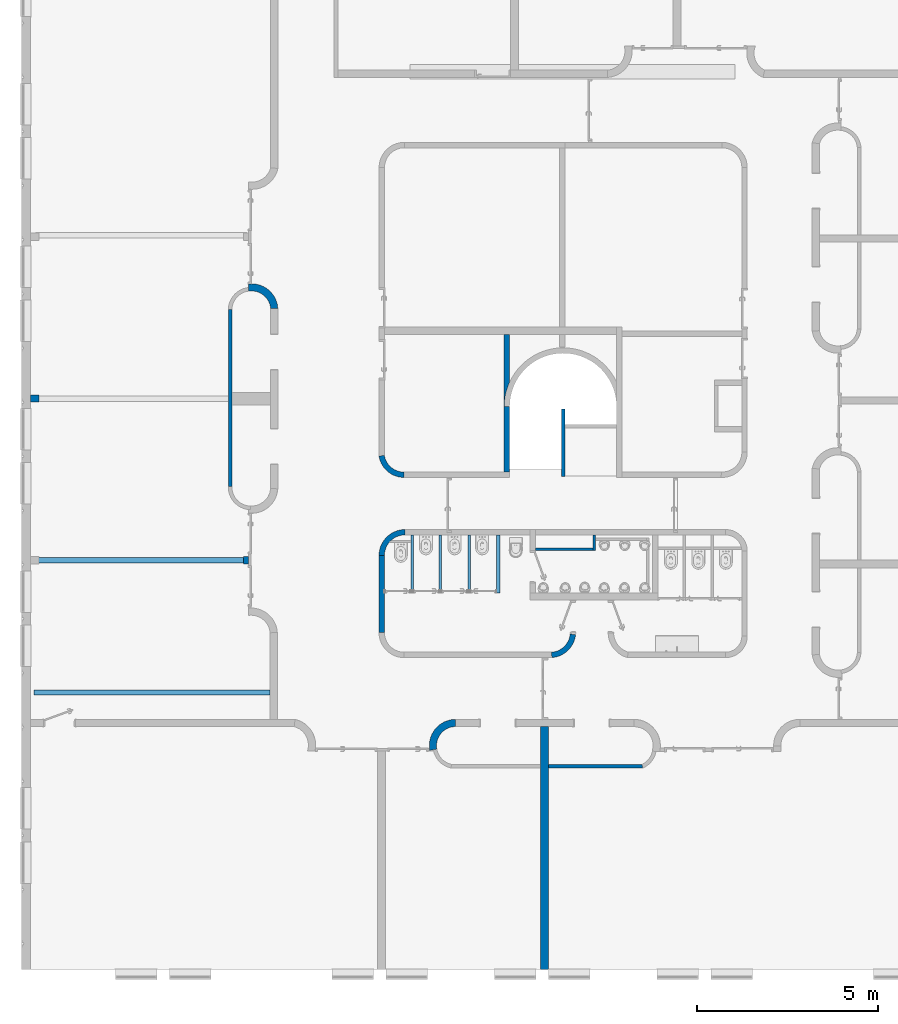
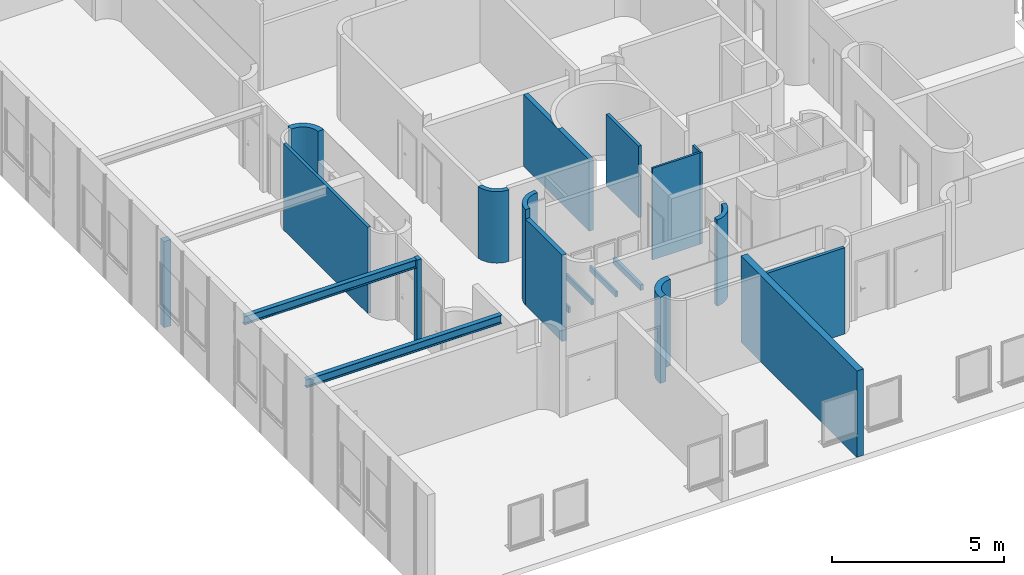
# One storey, part 1 of 7: 19 walls, 2 beams, 1 opening.
"""IFC2X3 building model written with IfcOpenShell, lengths in metres."""

from ifc_helpers import new_model, entity, si_unit, converted_unit, derived_unit, direction, frame, frame_2d, origin, origin_2d_with_axis, place, context, subcontext, project, spatial, polyline, circle_curve, parameter, trimmed, segment, composite_curve, rectangle, i_section, outline, extrude, clip, halfspace, bounded_halfspace, material, layer, layer_set, layer_usage, type_object, element, save


model = new_model("IFC2X3")

# Units and contexts
model_context = context("Model", 3, precision=1e-05, world=origin(), true_north=direction((6.12303176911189e-17, 1.0)))
body_context = subcontext(model_context, "Body", "Model", "MODEL_VIEW")
ifc_project = project(units=[si_unit("LENGTHUNIT", "METRE"), si_unit("AREAUNIT", "SQUARE_METRE"), si_unit("VOLUMEUNIT", "CUBIC_METRE"), converted_unit("PLANEANGLEUNIT", "DEGREE", entity("IfcRatioMeasure", 0.0174532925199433), si_unit("PLANEANGLEUNIT", "RADIAN"), dimensions=[0, 0, 0, 0, 0, 0, 0]), si_unit("MASSUNIT", "GRAM", prefix="KILO"), derived_unit("MASSDENSITYUNIT", [(si_unit("MASSUNIT", "GRAM", prefix="KILO"), 1), (si_unit("LENGTHUNIT", "METRE"), -3)]), derived_unit("MOMENTOFINERTIAUNIT", [(si_unit("LENGTHUNIT", "METRE"), 4)]), si_unit("TIMEUNIT", "SECOND"), si_unit("FREQUENCYUNIT", "HERTZ"), si_unit("THERMODYNAMICTEMPERATUREUNIT", "DEGREE_CELSIUS"), derived_unit("THERMALTRANSMITTANCEUNIT", [(si_unit("MASSUNIT", "GRAM", prefix="KILO"), 1), (si_unit("THERMODYNAMICTEMPERATUREUNIT", "KELVIN"), -1), (si_unit("TIMEUNIT", "SECOND"), -3)]), derived_unit("VOLUMETRICFLOWRATEUNIT", [(si_unit("LENGTHUNIT", "METRE"), 3), (si_unit("TIMEUNIT", "SECOND"), -1)]), si_unit("ELECTRICCURRENTUNIT", "AMPERE"), si_unit("ELECTRICVOLTAGEUNIT", "VOLT"), si_unit("POWERUNIT", "WATT"), si_unit("FORCEUNIT", "NEWTON", prefix="KILO"), si_unit("ILLUMINANCEUNIT", "LUX"), si_unit("LUMINOUSFLUXUNIT", "LUMEN"), si_unit("LUMINOUSINTENSITYUNIT", "CANDELA"), derived_unit("USERDEFINED", [(si_unit("MASSUNIT", "GRAM", prefix="KILO"), -1), (si_unit("LENGTHUNIT", "METRE"), -2), (si_unit("TIMEUNIT", "SECOND"), 3), (si_unit("LUMINOUSFLUXUNIT", "LUMEN"), 1)]), derived_unit("LINEARVELOCITYUNIT", [(si_unit("LENGTHUNIT", "METRE"), 1), (si_unit("TIMEUNIT", "SECOND"), -1)]), si_unit("PRESSUREUNIT", "PASCAL"), derived_unit("USERDEFINED", [(si_unit("LENGTHUNIT", "METRE"), -2), (si_unit("MASSUNIT", "GRAM", prefix="KILO"), 1), (si_unit("TIMEUNIT", "SECOND"), -2)]), derived_unit("LINEARFORCEUNIT", [(si_unit("MASSUNIT", "GRAM", prefix="KILO"), 1), (si_unit("LENGTHUNIT", "METRE"), 1), (si_unit("TIMEUNIT", "SECOND"), -2), (si_unit("LENGTHUNIT", "METRE"), -1)]), derived_unit("PLANARFORCEUNIT", [(si_unit("MASSUNIT", "GRAM", prefix="KILO"), 1), (si_unit("LENGTHUNIT", "METRE"), 1), (si_unit("TIMEUNIT", "SECOND"), -2), (si_unit("LENGTHUNIT", "METRE"), -2)])], contexts=[model_context])

# Site, building, storey
site_placement = place(None, origin())
site = spatial("IfcSite", under=ifc_project, at=site_placement, Name="Default", CompositionType="ELEMENT")
building_placement = place(site_placement, origin())
building = spatial("IfcBuilding", under=site, at=building_placement, CompositionType="ELEMENT")
storey_placement = place(building_placement, frame((0.0, 0.0, 7.36730827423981)))
storey = spatial("IfcBuildingStorey", under=building, at=storey_placement, Name="Niveau 2", CompositionType="ELEMENT", Elevation=7.36730827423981)

# Beams
ifc_material_1 = material(Name="Acier structurel - S235")
beam_type = type_object("IfcBeamType", Name="IPE 30:IPE300", PredefinedType="NOTDEFINED")
beam_1_placement = place(storey_placement, frame((-25.4539891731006, -9.6241883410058, 0.656000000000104)))
element("IfcBeam", 1, at=beam_1_placement, inside=storey, type_object=beam_type, material=ifc_material_1, Name="IPE 30:IPE300", ObjectType="IPE 30:IPE300", context=body_context, shape_type="SweptSolid", body=[
    extrude(i_section(OverallWidth=0.150000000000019, OverallDepth=0.299999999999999, WebThickness=0.00709999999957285, FlangeThickness=0.0106999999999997, FilletRadius=0.0150000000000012, at=frame_2d((1.08246744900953e-15, -1.08246744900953e-15), x_axis=(0.0, 1.0))), frame((0.0, 0.0, 2.24999999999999), z_axis=(1.0, 0.0, 0.0), x_axis=(0.0, 0.0, -1.0)), (0.0, 0.0, 1.0), 5.86),
])
beam_2_placement = place(storey_placement, frame((-25.4939891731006, -13.2841883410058, 0.656000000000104)))
element("IfcBeam", 2, at=beam_2_placement, inside=storey, type_object=beam_type, material=ifc_material_1, Name="IPE 30:IPE300", ObjectType="IPE 30:IPE300", context=body_context, shape_type="SweptSolid", body=[
    extrude(i_section(OverallWidth=0.15000000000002, OverallDepth=0.300000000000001, WebThickness=0.00709999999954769, FlangeThickness=0.0107000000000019, FilletRadius=0.0150000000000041, at=frame_2d((2.16493489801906e-15, 0.0), x_axis=(0.0, 1.0))), frame((0.0, 0.0, 2.24999999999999), z_axis=(1.0, 0.0, 0.0), x_axis=(0.0, 0.0, -1.0)), (0.0, 0.0, 1.0), 6.535),
])

# Wall
ifc_material_2 = material(Name="Maçonnerie - Voile BA")
ifc_layer_1 = layer(ifc_material_2, 0.2)
ifc_layer_set_1 = layer_set([ifc_layer_1], Name="Mur de base:Ext. Voile BA 200")
ifc_layer_usage_1 = layer_usage(ifc_layer_set_1, "AXIS2", "NEGATIVE", 0.1)
wall_type_1 = type_object("IfcWallType", Name="Mur de base:Ext. Voile BA 200", PredefinedType="STANDARD", material=ifc_layer_set_1)
wall_1_placement = place(storey_placement, frame((-14.4390437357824, -14.8705536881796, 0.0), z_axis=(0.0, 0.0, 1.0), x_axis=(-1.0, 0.0, 0.0)))
element("IfcWallStandardCase", 3, at=wall_1_placement, inside=storey, type_object=wall_type_1, material=ifc_layer_usage_1, Name="Mur de base:Ext. Voile BA 200", ObjectType="Mur de base:Ext. Voile BA 200", context=body_context, shape_type="Clipping", body=[
    clip(extrude(outline(composite_curve([segment(trimmed(circle_curve(frame_2d((-0.620065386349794, -0.111440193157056), x_axis=(1.0, 0.0)), 0.73), [parameter(269.999999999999)], [parameter(10.1886163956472)], True, "PARAMETER"), True, "CONTINUOUS"), segment(polyline([(0.0984230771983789, 0.0176889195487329), (-0.098423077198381, -0.0176889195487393)]), True, "CONTINUOUS"), segment(trimmed(circle_curve(frame_2d((-0.620065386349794, -0.111440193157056), x_axis=(1.0, 0.0)), 0.53), [parameter(269.999999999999)], [parameter(10.1886163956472)], True, "PARAMETER"), False, "CONTINUOUS"), segment(polyline([(-0.620065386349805, -0.641440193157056), (-0.620065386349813, -0.841440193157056)]), True, "CONTINUOUS")], self_intersect=False)), origin(), (0.0, 0.0, 1.0), 3.05600000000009), halfspace(frame((-0.62006538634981, -0.841440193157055, 3.05600000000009), z_axis=(0.0, 0.0, -1.0), x_axis=(0.0, -1.0, 0.0)), True)),
])

# Wall, opening
ifc_layer_usage_2 = layer_usage(ifc_layer_set_1, "AXIS2", "NEGATIVE", 0.1)
wall_2_placement = place(storey_placement, frame((-19.572419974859, -2.07282831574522, 0.0)))
wall_2 = element("IfcWallStandardCase", 4, at=wall_2_placement, inside=storey, type_object=wall_type_1, material=ifc_layer_usage_2, Name="Mur de base:Ext. Voile BA 200", ObjectType="Mur de base:Ext. Voile BA 200", context=body_context, shape_type="Clipping", body=[
    clip(extrude(outline(composite_curve([segment(polyline([(0.62843080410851, -0.578719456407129), (0.828430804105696, -0.57119727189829)]), True, "CONTINUOUS"), segment(trimmed(circle_curve(frame_2d((0.10019936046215, -0.621980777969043), x_axis=(1.0, 0.0)), 0.73), [parameter(3.98908573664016)], [parameter(91.12202512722)], True, "PARAMETER"), True, "CONTINUOUS"), segment(polyline([(0.085904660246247, 0.107879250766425), (0.0859046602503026, 0.102085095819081)]), True, "CONTINUOUS"), segment(polyline([(0.0859046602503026, 0.102085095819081), (0.0159046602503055, 0.102085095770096)]), True, "CONTINUOUS"), segment(polyline([(0.0159046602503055, 0.102085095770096), (0.0159046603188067, 0.00419670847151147)]), True, "CONTINUOUS"), segment(polyline([(0.0159046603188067, 0.00419670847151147), (0.0159046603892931, -0.0965302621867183)]), True, "CONTINUOUS"), segment(polyline([(0.0159046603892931, -0.0965302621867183), (0.0159046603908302, -0.0987271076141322)]), True, "CONTINUOUS"), segment(trimmed(circle_curve(frame_2d((0.10019936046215, -0.621980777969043), x_axis=(1.0, 0.0)), 0.53), [parameter(4.68198466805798)], [parameter(99.1515620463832)], True, "PARAMETER"), False, "CONTINUOUS")], self_intersect=False)), origin(), (0.0, 0.0, 1.0), 3.05600000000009), bounded_halfspace(frame((0.828430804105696, -0.57119727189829, 3.05600000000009), z_axis=(0.0, 0.0, -1.0), x_axis=(0.0, 1.0, 0.0)), True, frame((0.828430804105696, -0.57119727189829, 3.05600000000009)), composite_curve([segment(trimmed(circle_curve(frame_2d((-0.221964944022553, -0.0154788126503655), x_axis=(1.0, 0.0)), 0.73), [parameter(3.98908573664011)], [parameter(12.3043566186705)], True, "PARAMETER"), True, "CONTINUOUS"), segment(trimmed(circle_curve(frame_2d((-0.221964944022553, -0.0154788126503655), x_axis=(1.0, 0.0)), 0.73), [parameter(12.3043566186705)], [parameter(45.3272334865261)], True, "PARAMETER"), True, "CONTINUOUS"), segment(trimmed(circle_curve(frame_2d((-0.221964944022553, -0.0154788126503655), x_axis=(1.0, 0.0)), 0.73), [parameter(45.3272334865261)], [parameter(96.6308611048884)], True, "PARAMETER"), True, "CONTINUOUS"), segment(polyline([(-0.247657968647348, 0.205536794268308), (-0.247657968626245, 0.175380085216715)]), True, "CONTINUOUS"), segment(polyline([(-0.247657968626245, 0.175380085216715), (-0.247657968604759, 0.144678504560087)]), True, "CONTINUOUS"), segment(polyline([(-0.247657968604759, 0.144678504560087), (-0.247657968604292, 0.144008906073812)]), True, "CONTINUOUS"), segment(trimmed(circle_curve(frame_2d((-0.221964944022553, -0.0154788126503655), x_axis=(1.0, 0.0)), 0.53), [parameter(14.4510463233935)], [parameter(99.1515620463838)], True, "PARAMETER"), False, "CONTINUOUS"), segment(trimmed(circle_curve(frame_2d((-0.221964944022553, -0.0154788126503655), x_axis=(1.0, 0.0)), 0.53), [parameter(4.68198466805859)], [parameter(14.4510463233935)], True, "PARAMETER"), False, "CONTINUOUS"), segment(polyline([(-0.0609599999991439, -0.00229276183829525), (-0.00457200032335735, -0.000171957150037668)]), True, "CONTINUOUS"), segment(polyline([(-0.00457200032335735, -0.000171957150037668), (0.0, 0.0)]), True, "CONTINUOUS")], self_intersect=False))),
])
opening_placement = place(wall_2_placement, origin())
element("IfcOpeningElement", 5, at=opening_placement, cuts=wall_2, Name="Mur de base:Ext. Voile BA 200", ObjectType="Opening", context=body_context, shape_type="SweptSolid", body=[
    extrude(rectangle(XDim=0.0700000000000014, YDim=1.12, at=origin_2d_with_axis()), frame((0.0509046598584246, 0.662085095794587, 0.0)), (0.0, 0.0, 1.0), 2.075),
])

# Walls
ifc_layer_usage_3 = layer_usage(ifc_layer_set_1, "AXIS2", "NEGATIVE", 0.1)
wall_3_placement = place(storey_placement, frame((-19.7015153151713, -9.62418834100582, 0.0)))
element("IfcWallStandardCase", 6, at=wall_3_placement, inside=storey, type_object=wall_type_1, material=ifc_layer_usage_3, Name="Mur de base:Ext. Voile BA 200", ObjectType="Mur de base:Ext. Voile BA 200", context=body_context, shape_type="Clipping", body=[
    clip(extrude(rectangle(XDim=0.14500000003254, YDim=0.2, at=frame_2d((0.0725000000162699, -1.11022302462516e-16), x_axis=(-1.0, 0.0))), origin(), (0.0, 0.0, 1.0), 3.05600000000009), bounded_halfspace(frame((0.0, -0.1, 3.05600000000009), z_axis=(0.0, 0.0, -1.0), x_axis=(0.0, 1.0, 0.0)), True, frame((0.0, -0.1, 3.05600000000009)), polyline([(0.0, 0.0), (0.14500000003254, 0.0), (0.144999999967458, 0.2), (0.0, 0.2), (0.0, 0.0)]))),
])
ifc_layer_usage_4 = layer_usage(ifc_layer_set_1, "AXIS2", "NEGATIVE", 0.1)
wall_4_placement = place(storey_placement, frame((-25.5939891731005, -5.1441883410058, 0.0)))
element("IfcWallStandardCase", 7, at=wall_4_placement, inside=storey, type_object=wall_type_1, material=ifc_layer_usage_4, Name="Mur de base:Ext. Voile BA 200", ObjectType="Mur de base:Ext. Voile BA 200", context=body_context, shape_type="Clipping", body=[
    clip(extrude(rectangle(XDim=0.232473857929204, YDim=0.2, at=frame_2d((0.116236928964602, 1.52655665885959e-16), x_axis=(-1.0, 0.0))), origin(), (0.0, 0.0, 1.0), 3.05600000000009), bounded_halfspace(frame((0.0, -0.1, 3.05600000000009), z_axis=(0.0, 0.0, -1.0), x_axis=(0.0, 1.0, 0.0)), True, frame((0.0, -0.1, 3.05600000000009)), polyline([(0.0, 0.0), (0.232473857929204, 0.0), (0.232473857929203, 0.2), (0.0, 0.2), (0.0, 0.0)]))),
])
ifc_material_3 = material(Name="Brique 55x220")
ifc_layer_2 = layer(ifc_material_3, 0.01)
ifc_layer_3 = layer(ifc_material_2, 0.2)
ifc_layer_4 = layer(ifc_material_3, 0.01)
ifc_layer_set_2 = layer_set([ifc_layer_2, ifc_layer_3, ifc_layer_4], Name="Mur de base:Ext. Voile BA 200 Brique")
ifc_layer_usage_5 = layer_usage(ifc_layer_set_2, "AXIS2", "NEGATIVE", 0.11)
wall_type_2 = type_object("IfcWallType", Name="Mur de base:Ext. Voile BA 200 Brique", PredefinedType="STANDARD", material=ifc_layer_set_2)
wall_5_placement = place(storey_placement, frame((-11.3565797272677, -20.9562530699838, 0.0), z_axis=(0.0, 0.0, 1.0), x_axis=(0.0, 1.0, 0.0)))
element("IfcWallStandardCase", 8, at=wall_5_placement, inside=storey, type_object=wall_type_2, material=ifc_layer_usage_5, Name="Mur de base:Ext. Voile BA 200 Brique", ObjectType="Mur de base:Ext. Voile BA 200 Brique", context=body_context, shape_type="Clipping", body=[
    clip(extrude(rectangle(XDim=6.72713793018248, YDim=0.220000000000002, at=frame_2d((3.36356896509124, -5.41233724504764e-16), x_axis=(-1.0, 0.0))), origin(), (0.0, 0.0, 1.0), 3.05600000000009), bounded_halfspace(frame((0.0, -0.109999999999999, 3.05600000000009), z_axis=(0.0, 0.0, -1.0), x_axis=(1.0, 0.0, 0.0)), True, frame((0.0, -0.109999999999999, 3.05600000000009)), polyline([(0.0, 0.0), (6.68713793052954, 0.0), (6.68713793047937, 0.219999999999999), (0.0, 0.22), (0.0, 0.0)]))),
])
ifc_material_4 = material(Name="Mur par défaut")
ifc_layer_5 = layer(ifc_material_4, 0.1)
ifc_layer_set_3 = layer_set([ifc_layer_5], Name="Mur de base:@_Générique - Int. 100 mm")
ifc_layer_usage_6 = layer_usage(ifc_layer_set_3, "AXIS2", "NEGATIVE", 0.05)
wall_type_3 = type_object("IfcWallType", Name="Mur de base:@_Générique - Int. 100 mm", PredefinedType="STANDARD", material=ifc_layer_set_3)
wall_6_placement = place(storey_placement, frame((-10.8439891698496, -5.42911513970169, 0.0), z_axis=(0.0, 0.0, 1.0), x_axis=(0.0, -1.0, 0.0)))
element("IfcWallStandardCase", 9, at=wall_6_placement, inside=storey, type_object=wall_type_3, material=ifc_layer_usage_6, Name="Mur de base:@_Générique - Int. 100 mm", ObjectType="Mur de base:@_Générique - Int. 100 mm", context=body_context, shape_type="Clipping", body=[
    clip(extrude(rectangle(XDim=1.88000000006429, YDim=0.0999999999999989, at=frame_2d((0.940000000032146, -3.46944695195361e-18), x_axis=(-1.0, 0.0))), origin(), (0.0, 0.0, 1.0), 2.5360000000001), bounded_halfspace(frame((0.0, -0.0499999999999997, 2.5360000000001), z_axis=(0.0, 0.0, -1.0), x_axis=(-1.0, 0.0, 0.0)), True, frame((0.0, -0.0499999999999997, 2.5360000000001)), polyline([(0.0, 0.0), (1.88000000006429, 0.0), (1.88000000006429, 0.0999999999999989), (0.527500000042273, 0.0999999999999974), (0.427500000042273, 0.0999999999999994), (0.0, 0.0999999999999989), (0.0, 0.0)]))),
])
ifc_layer_usage_7 = layer_usage(ifc_layer_set_3, "AXIS2", "NEGATIVE", 0.05)
wall_7_placement = place(storey_placement, frame((-11.2465797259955, -15.3262959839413, 0.0)))
element("IfcWallStandardCase", 10, at=wall_7_placement, inside=storey, type_object=wall_type_3, material=ifc_layer_usage_7, Name="Mur de base:@_Générique - Int. 100 mm", ObjectType="Mur de base:@_Générique - Int. 100 mm", context=body_context, shape_type="Clipping", body=[
    clip(extrude(outline(polyline([(2.60877555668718, -0.0500000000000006), (2.58773252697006, 0.0499999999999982), (0.0, 0.0499999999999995), (0.0, -0.0499999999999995), (2.60877555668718, -0.0500000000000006)])), origin(), (0.0, 0.0, 1.0), 3.05600000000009), bounded_halfspace(frame((0.0, -0.0499999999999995, 3.05600000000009), z_axis=(0.0, 0.0, -1.0), x_axis=(0.0, 1.0, 0.0)), True, frame((0.0, -0.0499999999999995, 3.05600000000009)), polyline([(0.0, 0.0), (2.60877555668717, 0.0), (2.58773252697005, 0.0999999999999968), (0.0, 0.0999999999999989), (0.0, 0.0)]))),
])
ifc_layer_usage_8 = layer_usage(ifc_layer_set_3, "AXIS2", "NEGATIVE", 0.05)
wall_8_placement = place(storey_placement, frame((-20.0669083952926, -2.67497732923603, 0.0), z_axis=(0.0, 0.0, 1.0), x_axis=(0.0, -1.0, 0.0)))
element("IfcWallStandardCase", 11, at=wall_8_placement, inside=storey, type_object=wall_type_3, material=ifc_layer_usage_8, Name="Mur de base:@_Générique - Int. 100 mm", ObjectType="Mur de base:@_Générique - Int. 100 mm", context=body_context, shape_type="Clipping", body=[
    clip(extrude(outline(polyline([(4.89861209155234, -0.0499999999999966), (4.90025443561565, 0.0500000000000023), (0.00164234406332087, 0.0500000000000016), (0.0, -0.0499999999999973), (4.89861209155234, -0.0499999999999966)])), origin(), (0.0, 0.0, 1.0), 3.05600000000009), bounded_halfspace(frame((0.0, -0.0499999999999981, 3.05600000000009), z_axis=(0.0, 0.0, -1.0), x_axis=(-1.0, 0.0, 0.0)), True, frame((0.0, -0.0499999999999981, 3.05600000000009)), polyline([(0.0, 0.0), (4.89861209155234, 0.0), (4.90025443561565, 0.0999999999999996), (0.00164234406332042, 0.099999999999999), (0.0, 0.0)]))),
])
ifc_layer_usage_9 = layer_usage(ifc_layer_set_3, "AXIS2", "NEGATIVE", 0.05)
wall_9_placement = place(storey_placement, frame((-12.6408984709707, -10.5247074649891, 0.0), z_axis=(0.0, 0.0, 1.0), x_axis=(-9.91412450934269e-09, 1.0, 0.0)))
element("IfcWallStandardCase", 12, at=wall_9_placement, inside=storey, type_object=wall_type_3, material=ifc_layer_usage_9, Name="Mur de base:@_Générique - Int. 100 mm", ObjectType="Mur de base:@_Générique - Int. 100 mm", context=body_context, shape_type="SweptSolid", body=[
    extrude(rectangle(XDim=1.60344960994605, YDim=0.0999999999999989, at=frame_2d((0.801724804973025, 3.81639164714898e-17), x_axis=(-1.0, 0.0))), origin(), (0.0, 0.0, 1.0), 0.2),
])
ifc_layer_6 = layer(ifc_material_2, 0.15)
ifc_layer_set_4 = layer_set([ifc_layer_6], Name="Mur de base:Ext. Voile BA 150")
ifc_layer_usage_10 = layer_usage(ifc_layer_set_4, "AXIS2", "NEGATIVE", 0.075)
wall_type_4 = type_object("IfcWallType", Name="Mur de base:Ext. Voile BA 150", PredefinedType="STANDARD", material=ifc_layer_set_4)
wall_10_placement = place(storey_placement, frame((-12.3989891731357, -3.36411513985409, 0.0), z_axis=(0.0, 0.0, 1.0), x_axis=(0.0, -1.0, 0.0)))
element("IfcWallStandardCase", 13, at=wall_10_placement, inside=storey, type_object=wall_type_4, material=ifc_layer_usage_10, Name="Mur de base:Ext. Voile BA 150", ObjectType="Mur de base:Ext. Voile BA 150", context=body_context, shape_type="SweptSolid", body=[
    extrude(outline(composite_curve([segment(polyline([(-0.0858928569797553, -1.96289898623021), (0.0641071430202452, -1.96289898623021)]), True, "CONTINUOUS"), segment(polyline([(0.0641071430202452, -1.96289898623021), (0.0641071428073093, -0.152898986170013)]), True, "CONTINUOUS"), segment(polyline([(0.0641071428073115, -0.152898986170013), (-0.0846428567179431, -0.152898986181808)]), True, "CONTINUOUS"), segment(trimmed(circle_curve(frame_2d((1.54535714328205, -0.152898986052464), x_axis=(-0.580872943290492, 0.813994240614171)), 1.63), [parameter(29.8201613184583)], [parameter(54.4880357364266)], True, "PARAMETER"), False, "CONTINUOUS"), segment(polyline([(0.0641071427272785, 0.527393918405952), (0.0641071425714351, 1.85210101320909)]), True, "CONTINUOUS"), segment(polyline([(0.0641071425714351, 1.85210101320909), (-0.0858928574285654, 1.85210101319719)]), True, "CONTINUOUS"), segment(polyline([(-0.0858928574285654, 1.85210101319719), (-0.0858928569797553, -1.96289898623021)]), True, "CONTINUOUS")], self_intersect=False)), frame((1.85210101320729, 0.0108928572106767, 0.0), z_axis=(0.0, 0.0, 1.0), x_axis=(0.0, 1.0, 0.0)), (0.0, 0.0, 1.0), 2.5360000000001),
])
ifc_layer_usage_11 = layer_usage(ifc_layer_set_4, "AXIS2", "NEGATIVE", 0.075)
wall_11_placement = place(storey_placement, frame((-15.8687028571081, -6.72746282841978, 0.0), z_axis=(0.0, 0.0, 1.0), x_axis=(-0.580872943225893, 0.813994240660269, 0.0)))
element("IfcWallStandardCase", 14, at=wall_11_placement, inside=storey, type_object=wall_type_4, material=ifc_layer_usage_11, Name="Mur de base:Ext. Voile BA 150", ObjectType="Mur de base:Ext. Voile BA 150", context=body_context, shape_type="Clipping", body=[
    clip(extrude(outline(composite_curve([segment(trimmed(circle_curve(frame_2d((-0.27846827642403, -0.559535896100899), x_axis=(1.0, 0.0)), 0.550000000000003), [parameter(63.5415155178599)], [parameter(144.488035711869)], True, "PARAMETER"), False, "CONTINUOUS"), segment(polyline([(-0.0334161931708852, -0.0671443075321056), (0.0334161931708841, 0.0671443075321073)]), True, "CONTINUOUS"), segment(trimmed(circle_curve(frame_2d((-0.27846827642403, -0.559535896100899), x_axis=(1.0, 0.0)), 0.700000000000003), [parameter(63.5415155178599)], [parameter(144.488035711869)], True, "PARAMETER"), True, "CONTINUOUS"), segment(polyline([(-0.848264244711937, -0.152924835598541), (-0.726165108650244, -0.240055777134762)]), True, "CONTINUOUS")], self_intersect=False)), origin(), (0.0, 0.0, 1.0), 2.5360000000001), bounded_halfspace(frame((-0.726165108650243, -0.24005577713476, 2.5360000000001), z_axis=(0.0, 0.0, -1.0), x_axis=(0.813994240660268, -0.580872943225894, 0.0)), True, frame((-0.726165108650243, -0.24005577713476, 2.5360000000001)), composite_curve([segment(trimmed(circle_curve(frame_2d((0.136457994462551, -0.0973775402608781), x_axis=(1.0, 0.0)), 0.550000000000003), [parameter(66.0965228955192)], [parameter(144.488035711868)], True, "PARAMETER"), False, "CONTINUOUS"), segment(trimmed(circle_curve(frame_2d((0.136457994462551, -0.0973775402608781), x_axis=(1.0, 0.0)), 0.550000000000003), [parameter(63.5415155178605)], [parameter(66.0965228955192)], True, "PARAMETER"), False, "CONTINUOUS"), segment(polyline([(0.211149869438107, 0.0527034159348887), (0.231172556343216, 0.0929356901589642)]), True, "CONTINUOUS"), segment(polyline([(0.231172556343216, 0.0929356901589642), (0.231520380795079, 0.0936345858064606)]), True, "CONTINUOUS"), segment(trimmed(circle_curve(frame_2d((0.136457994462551, -0.0973775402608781), x_axis=(1.0, 0.0)), 0.700000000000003), [parameter(63.5415155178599)], [parameter(144.488035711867)], True, "PARAMETER"), True, "CONTINUOUS"), segment(polyline([(-0.0372158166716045, 0.0265575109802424), (0.0, 0.0)]), True, "CONTINUOUS")], self_intersect=False))),
])
ifc_layer_7 = layer(ifc_material_4, 0.15)
ifc_layer_set_5 = layer_set([ifc_layer_7], Name="Mur de base:@_Générique - Int. 150 mm")
ifc_layer_usage_12 = layer_usage(ifc_layer_set_5, "AXIS2", "NEGATIVE", 0.075)
wall_type_5 = type_object("IfcWallType", Name="Mur de base:@_Générique - Int. 150 mm", PredefinedType="STANDARD", material=ifc_layer_set_5)
wall_12_placement = place(storey_placement, frame((-15.86898916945, -9.496257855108, 0.0), z_axis=(0.0, 0.0, 1.0), x_axis=(0.0, -1.0, 0.0)))
element("IfcWallStandardCase", 15, at=wall_12_placement, inside=storey, type_object=wall_type_5, material=ifc_layer_usage_12, Name="Mur de base:@_Générique - Int. 150 mm", ObjectType="Mur de base:@_Générique - Int. 150 mm", context=body_context, shape_type="Clipping", body=[
    clip(extrude(rectangle(XDim=2.12281436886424, YDim=0.150000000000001, at=frame_2d((1.06140718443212, 2.70616862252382e-16), x_axis=(-1.0, 0.0))), origin(), (0.0, 0.0, 1.0), 3.05600000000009), bounded_halfspace(frame((0.0, -0.0750000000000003, 3.05600000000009), z_axis=(0.0, 0.0, -1.0), x_axis=(-1.0, 0.0, 0.0)), True, frame((0.0, -0.0750000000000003, 3.05600000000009)), polyline([(0.0, 0.0), (2.12281436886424, 0.0), (2.12281436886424, 0.150000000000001), (0.0, 0.150000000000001), (0.0, 0.0)]))),
])
ifc_layer_usage_13 = layer_usage(ifc_layer_set_5, "AXIS2", "NEGATIVE", 0.075)
wall_13_placement = place(storey_placement, frame((-10.5734861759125, -11.6744500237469, 0.0), z_axis=(0.0, 0.0, 1.0), x_axis=(0.613352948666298, 0.789808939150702, 0.0)))
element("IfcWallStandardCase", 16, at=wall_13_placement, inside=storey, type_object=wall_type_5, material=ifc_layer_usage_13, Name="Mur de base:@_Générique - Int. 150 mm", ObjectType="Mur de base:@_Générique - Int. 150 mm", context=body_context, shape_type="Clipping", body=[
    clip(extrude(outline(composite_curve([segment(trimmed(circle_curve(frame_2d((-0.337943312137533, 0.53266286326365), x_axis=(1.0, 0.0)), 0.70582121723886), [parameter(221.440796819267)], [parameter(302.392728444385)], True, "PARAMETER"), True, "CONTINUOUS"), segment(polyline([(0.0401789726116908, -0.063329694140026), (-0.0401789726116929, 0.0633296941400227)]), True, "CONTINUOUS"), segment(trimmed(circle_curve(frame_2d((-0.337943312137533, 0.53266286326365), x_axis=(1.0, 0.0)), 0.55582121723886), [parameter(221.898839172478)], [parameter(302.392728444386)], True, "PARAMETER"), False, "CONTINUOUS"), segment(polyline([(-0.751654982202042, 0.161475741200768), (-0.867055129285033, 0.0655180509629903)]), True, "CONTINUOUS")], self_intersect=False)), origin(), (0.0, 0.0, 1.0), 3.05600000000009), halfspace(frame((-0.867055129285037, 0.065518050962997, 3.05600000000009), z_axis=(0.0, 0.0, -1.0), x_axis=(0.789808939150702, 0.613352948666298, 0.0)), True)),
])
ifc_layer_usage_14 = layer_usage(ifc_layer_set_5, "AXIS2", "POSITIVE", -0.075)
wall_14_placement = place(storey_placement, frame((-15.86898916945, -9.49625785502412, 0.0), z_axis=(0.0, 0.0, 1.0), x_axis=(-1.0, 0.0, 0.0)))
element("IfcWallStandardCase", 17, at=wall_14_placement, inside=storey, type_object=wall_type_5, material=ifc_layer_usage_14, Name="Mur de base:@_Générique - Int. 150 mm", ObjectType="Mur de base:@_Générique - Int. 150 mm", context=body_context, shape_type="SweptSolid", body=[
    extrude(outline(composite_curve([segment(trimmed(circle_curve(frame_2d((-0.650000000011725, 0.0), x_axis=(1.0, 0.0)), 0.725000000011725), [parameter(269.999999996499)], [parameter(360.0)], True, "PARAMETER"), True, "CONTINUOUS"), segment(polyline([(0.0750000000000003, 0.0), (-0.0750000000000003, 0.0)]), True, "CONTINUOUS"), segment(trimmed(circle_curve(frame_2d((-0.650000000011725, 0.0), x_axis=(1.0, 0.0)), 0.575000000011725), [parameter(269.999999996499)], [parameter(0.0)], True, "PARAMETER"), False, "CONTINUOUS"), segment(polyline([(-0.650000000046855, -0.575000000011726), (-0.650000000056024, -0.725000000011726)]), True, "CONTINUOUS")], self_intersect=False)), origin(), (0.0, 0.0, 1.0), 3.3860000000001),
])
ifc_layer_8 = layer(ifc_material_4, 0.07)
ifc_layer_set_6 = layer_set([ifc_layer_8], Name="Mur de base:@_Générique - Int. 70 mm")
ifc_layer_usage_15 = layer_usage(ifc_layer_set_6, "AXIS2", "NEGATIVE", 0.035)
wall_type_6 = type_object("IfcWallType", Name="Mur de base:@_Générique - Int. 70 mm", PredefinedType="STANDARD", material=ifc_layer_set_6)
wall_15_placement = place(storey_placement, frame((-14.2442475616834, -10.4547074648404, 0.0), z_axis=(0.0, 0.0, 1.0), x_axis=(-9.91412450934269e-09, 1.0, 0.0)))
element("IfcWallStandardCase", 18, at=wall_15_placement, inside=storey, type_object=wall_type_6, material=ifc_layer_usage_15, Name="Mur de base:@_Générique - Int. 70 mm", ObjectType="Mur de base:@_Générique - Int. 70 mm", context=body_context, shape_type="SweptSolid", body=[
    extrude(rectangle(XDim=1.53344960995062, YDim=0.0700000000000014, at=frame_2d((0.766724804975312, -6.27969898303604e-16), x_axis=(-1.0, 0.0))), origin(), (0.0, 0.0, 1.0), 0.2),
])
ifc_layer_usage_16 = layer_usage(ifc_layer_set_6, "AXIS2", "NEGATIVE", 0.035)
wall_16_placement = place(storey_placement, frame((-13.4397470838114, -10.4547074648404, 0.0), z_axis=(0.0, 0.0, 1.0), x_axis=(-9.91412450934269e-09, 1.0, 0.0)))
element("IfcWallStandardCase", 19, at=wall_16_placement, inside=storey, type_object=wall_type_6, material=ifc_layer_usage_16, Name="Mur de base:@_Générique - Int. 70 mm", ObjectType="Mur de base:@_Générique - Int. 70 mm", context=body_context, shape_type="SweptSolid", body=[
    extrude(rectangle(XDim=1.53344960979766, YDim=0.0700000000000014, at=frame_2d((0.766724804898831, 4.54497550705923e-16), x_axis=(-1.0, 0.0))), origin(), (0.0, 0.0, 1.0), 0.2),
])
ifc_layer_usage_17 = layer_usage(ifc_layer_set_6, "AXIS2", "NEGATIVE", 0.035)
wall_17_placement = place(storey_placement, frame((-15.0247470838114, -10.4547074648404, 0.0), z_axis=(0.0, 0.0, 1.0), x_axis=(-9.91412450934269e-09, 1.0, 0.0)))
element("IfcWallStandardCase", 20, at=wall_17_placement, inside=storey, type_object=wall_type_6, material=ifc_layer_usage_17, Name="Mur de base:@_Générique - Int. 70 mm", ObjectType="Mur de base:@_Générique - Int. 70 mm", context=body_context, shape_type="SweptSolid", body=[
    extrude(rectangle(XDim=1.53344961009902, YDim=0.0700000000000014, at=frame_2d((0.766724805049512, 4.54497550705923e-16), x_axis=(-1.0, 0.0))), origin(), (0.0, 0.0, 1.0), 0.2),
])
ifc_layer_usage_18 = layer_usage(ifc_layer_set_6, "AXIS2", "NEGATIVE", 0.035)
wall_18_placement = place(storey_placement, frame((-9.98006333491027, -8.92125785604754, 0.0), z_axis=(0.0, 0.0, 1.0), x_axis=(0.0, -1.0, 0.0)))
element("IfcWallStandardCase", 21, at=wall_18_placement, inside=storey, type_object=wall_type_6, material=ifc_layer_usage_18, Name="Mur de base:@_Générique - Int. 70 mm", ObjectType="Mur de base:@_Générique - Int. 70 mm", context=body_context, shape_type="SweptSolid", body=[
    extrude(rectangle(XDim=0.4346059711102, YDim=0.0699999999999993, at=frame_2d((0.217302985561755, 9.8879238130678e-16), x_axis=(-1.0, 0.0))), origin(), (0.0, 0.0, 1.0), 3.24543551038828),
])
ifc_layer_usage_19 = layer_usage(ifc_layer_set_6, "AXIS2", "NEGATIVE", 0.035)
wall_19_placement = place(storey_placement, frame((-11.612298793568, -9.32086382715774, 0.0)))
element("IfcWallStandardCase", 22, at=wall_19_placement, inside=storey, type_object=wall_type_6, material=ifc_layer_usage_19, Name="Mur de base:@_Générique - Int. 70 mm", ObjectType="Mur de base:@_Générique - Int. 70 mm", context=body_context, shape_type="SweptSolid", body=[
    extrude(rectangle(XDim=1.5972354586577, YDim=0.0699999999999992, at=frame_2d((0.798617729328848, -1.66533453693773e-16), x_axis=(-1.0, 0.0))), origin(), (0.0, 0.0, 1.0), 3.24543551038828),
])

save(model, "model.ifc")
